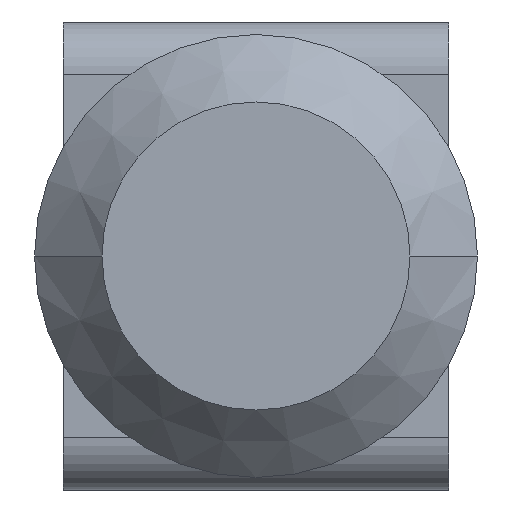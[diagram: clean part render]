
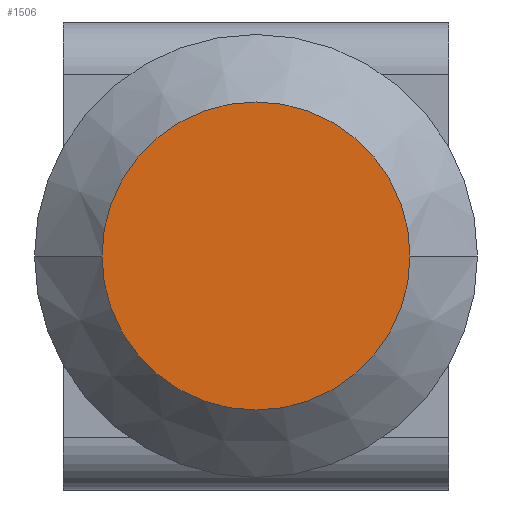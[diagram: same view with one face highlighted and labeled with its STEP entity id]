
A CAD part, front view. The second image highlights one B-rep face of the part: STEP entity #1506.
In plain terms, the highlighted planar face has unit normal (0, -1, 0).
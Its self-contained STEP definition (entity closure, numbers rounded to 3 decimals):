
#34 = DIRECTION ( 'NONE',  ( -1., 0., 0. ) ) ;
#260 = DIRECTION ( 'NONE',  ( 0., 1., 0. ) ) ;
#285 = CARTESIAN_POINT ( 'NONE',  ( 8., 0., 0. ) ) ;
#458 = CARTESIAN_POINT ( 'NONE',  ( 0., 0., 0. ) ) ;
#470 = DIRECTION ( 'NONE',  ( 0., 1., 0. ) ) ;
#478 = DIRECTION ( 'NONE',  ( -1., 0., 0. ) ) ;
#500 = VERTEX_POINT ( 'NONE', #724 ) ;
#549 = FACE_OUTER_BOUND ( 'NONE', #1606, .T. ) ;
#724 = CARTESIAN_POINT ( 'NONE',  ( -8., 0., 0. ) ) ;
#766 = CARTESIAN_POINT ( 'NONE',  ( 0., 0., 0. ) ) ;
#954 = EDGE_CURVE ( 'NONE', #500, #1864, #1896, .T. ) ;
#1143 = AXIS2_PLACEMENT_3D ( 'NONE', #766, #260, #34 ) ;
#1290 = PLANE ( 'NONE',  #1679 ) ;
#1488 = DIRECTION ( 'NONE',  ( 0., -1., 0. ) ) ;
#1506 = ADVANCED_FACE ( 'NONE', ( #549 ), #1290, .T. ) ;
#1589 = CIRCLE ( 'NONE', #2121, 8. ) ;
#1606 = EDGE_LOOP ( 'NONE', ( #2331, #2004 ) ) ;
#1679 = AXIS2_PLACEMENT_3D ( 'NONE', #1785, #1488, #2057 ) ;
#1785 = CARTESIAN_POINT ( 'NONE',  ( -8., 0., 0. ) ) ;
#1864 = VERTEX_POINT ( 'NONE', #285 ) ;
#1888 = EDGE_CURVE ( 'NONE', #1864, #500, #1589, .T. ) ;
#1896 = CIRCLE ( 'NONE', #1143, 8. ) ;
#2004 = ORIENTED_EDGE ( 'NONE', *, *, #1888, .F. ) ;
#2057 = DIRECTION ( 'NONE',  ( 1., 0., 0. ) ) ;
#2121 = AXIS2_PLACEMENT_3D ( 'NONE', #458, #470, #478 ) ;
#2331 = ORIENTED_EDGE ( 'NONE', *, *, #954, .F. ) ;
